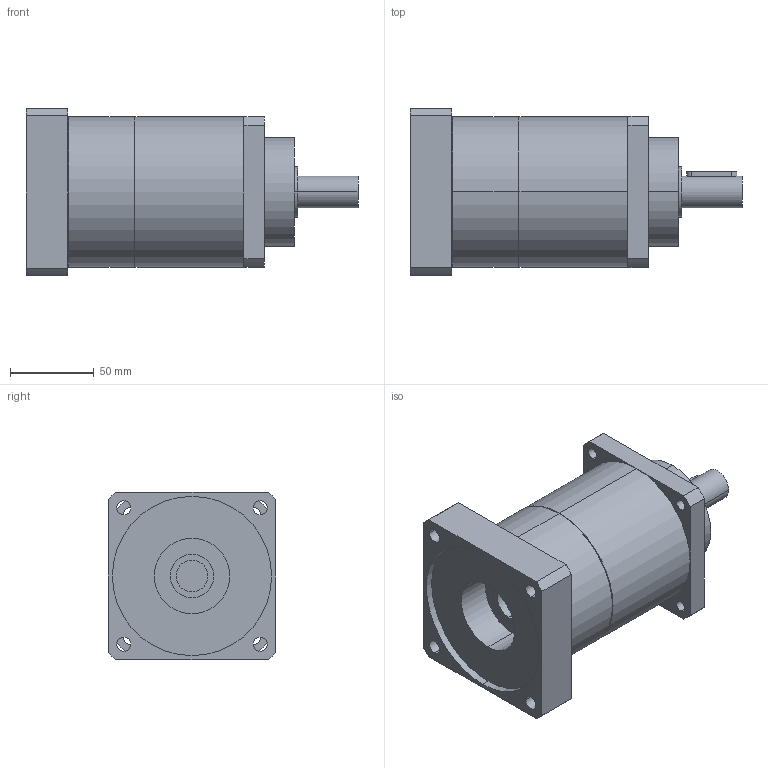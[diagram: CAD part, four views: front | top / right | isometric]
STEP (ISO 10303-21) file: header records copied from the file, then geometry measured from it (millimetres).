
FILE_DESCRIPTION(('CoCreate Modeling STEP Export'),'2;1');
FILE_NAME('GPT90_ig-9-12-16-20-25-28-35-40-50-70-100_19_B5T_19_P35.stp','2015-02-04T11:33:21',(''),(''),'CoCreate Modeling STEP processor for AP214 (Solid Model)','CoCreate Modeling 16.00C 25-Feb-2009 (C) Parametric Technology GmbH','');
FILE_SCHEMA(('AUTOMOTIVE_DESIGN { 1 0 10303 214 1 1 1 1 }'));
Length unit declared in the file: millimetre
Products named in the file (2): GPT90_ig-9-12-16-20-25-28-35-40-50-70-100_19_B5T_19_P35
Assembly tree (1 placements, depth 2):
  GPT90_ig-9-12-16-20-25-28-35-40-50-70-100_19_B5T_19_P35
    GPT90_ig-9-12-16-20-25-28-35-40-50-70-100_19_B5T_19_P35
Bounding box: 198 x 100 x 100 mm (x, y, z)
Volume: 1004415.3 mm3; surface area: 83313.2 mm2
Topology: 1 solids, 1 shells, 77 faces, 206 edges, 141 vertices
Faces by surface type: cylinder 46, plane 27, cone 4
Entity records: 2596 total; most frequent: CARTESIAN_POINT 742, ORIENTED_EDGE 412, DIRECTION 324, EDGE_CURVE 206, VERTEX_POINT 141, AXIS2_PLACEMENT_3D 120, EDGE_LOOP 103, VECTOR 84
